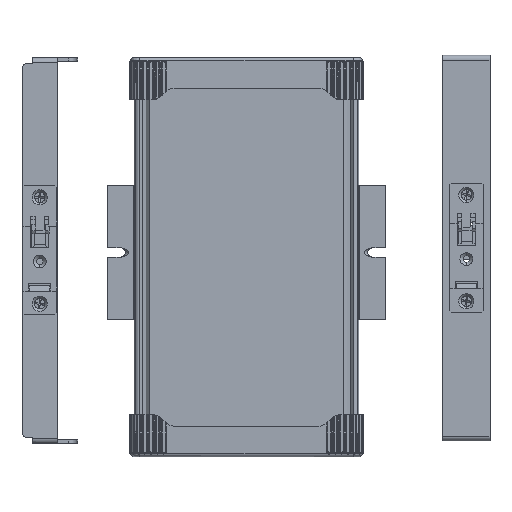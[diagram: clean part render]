
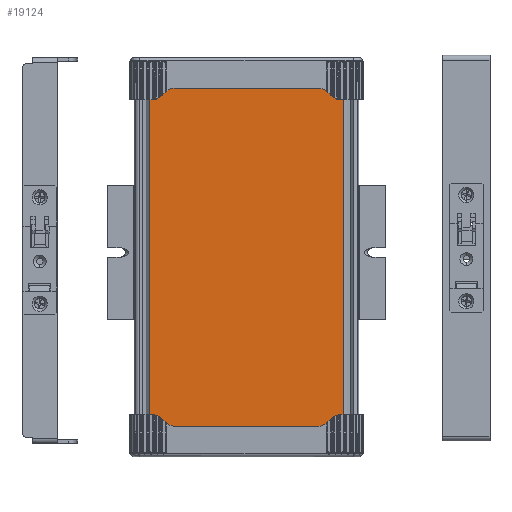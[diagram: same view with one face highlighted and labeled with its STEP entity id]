
A CAD part, front view. The second image highlights one B-rep face of the part: STEP entity #19124.
In plain terms, the highlighted planar face has unit normal (0, -1, 0).
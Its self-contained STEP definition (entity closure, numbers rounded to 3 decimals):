
#913 = ORIENTED_EDGE ( 'NONE', *, *, #11007, .T. ) ;
#2866 = CARTESIAN_POINT ( 'NONE',  ( 57.459, -17.5, 110.25 ) ) ;
#3838 = AXIS2_PLACEMENT_3D ( 'NONE', #42811, #37051, #47855 ) ;
#3840 = DIRECTION ( 'NONE',  ( 0., 0., -1. ) ) ;
#3925 = ORIENTED_EDGE ( 'NONE', *, *, #10101, .F. ) ;
#9599 = VECTOR ( 'NONE', #20339, 1000. ) ;
#10101 = EDGE_CURVE ( 'NONE', #63934, #54263, #70559, .T. ) ;
#11007 = EDGE_CURVE ( 'NONE', #22086, #21243, #37692, .T. ) ;
#14286 = EDGE_CURVE ( 'NONE', #21243, #54263, #53506, .T. ) ;
#16544 = EDGE_CURVE ( 'NONE', #22086, #63934, #43458, .T. ) ;
#19124 = ADVANCED_FACE ( 'NONE', ( #29528 ), #24136, .F. ) ;
#20304 = ORIENTED_EDGE ( 'NONE', *, *, #14286, .T. ) ;
#20339 = DIRECTION ( 'NONE',  ( 1., 0., 0. ) ) ;
#21243 = VERTEX_POINT ( 'NONE', #44415 ) ;
#22086 = VERTEX_POINT ( 'NONE', #27973 ) ;
#24136 = PLANE ( 'NONE',  #3838 ) ;
#26187 = DIRECTION ( 'NONE',  ( 1., 0., 0. ) ) ;
#27973 = CARTESIAN_POINT ( 'NONE',  ( -57.459, -17.5, 110.25 ) ) ;
#29528 = FACE_OUTER_BOUND ( 'NONE', #47778, .T. ) ;
#37051 = DIRECTION ( 'NONE',  ( 0., 1., 0. ) ) ;
#37692 = LINE ( 'NONE', #48151, #55392 ) ;
#39400 = ORIENTED_EDGE ( 'NONE', *, *, #16544, .F. ) ;
#42811 = CARTESIAN_POINT ( 'NONE',  ( 57.459, -17.5, 110.25 ) ) ;
#43191 = DIRECTION ( 'NONE',  ( 0., 0., -1. ) ) ;
#43369 = CARTESIAN_POINT ( 'NONE',  ( 57.459, -17.5, -110.25 ) ) ;
#43458 = LINE ( 'NONE', #2866, #54407 ) ;
#44415 = CARTESIAN_POINT ( 'NONE',  ( -57.459, -17.5, -110.25 ) ) ;
#47778 = EDGE_LOOP ( 'NONE', ( #20304, #3925, #39400, #913 ) ) ;
#47855 = DIRECTION ( 'NONE',  ( -1., 0., 0. ) ) ;
#48151 = CARTESIAN_POINT ( 'NONE',  ( -57.459, -17.5, 110.25 ) ) ;
#51950 = CARTESIAN_POINT ( 'NONE',  ( 57.459, -17.5, -110.25 ) ) ;
#53506 = LINE ( 'NONE', #43369, #9599 ) ;
#54263 = VERTEX_POINT ( 'NONE', #51950 ) ;
#54407 = VECTOR ( 'NONE', #26187, 1000. ) ;
#55392 = VECTOR ( 'NONE', #3840, 1000. ) ;
#57627 = VECTOR ( 'NONE', #43191, 1000. ) ;
#58746 = CARTESIAN_POINT ( 'NONE',  ( 57.459, -17.5, 110.25 ) ) ;
#59412 = CARTESIAN_POINT ( 'NONE',  ( 57.459, -17.5, 110.25 ) ) ;
#63934 = VERTEX_POINT ( 'NONE', #59412 ) ;
#70559 = LINE ( 'NONE', #58746, #57627 ) ;
